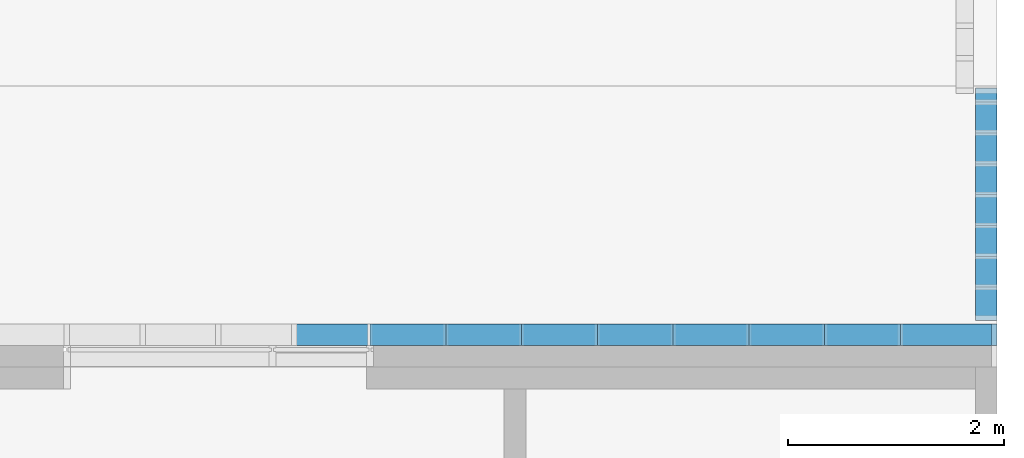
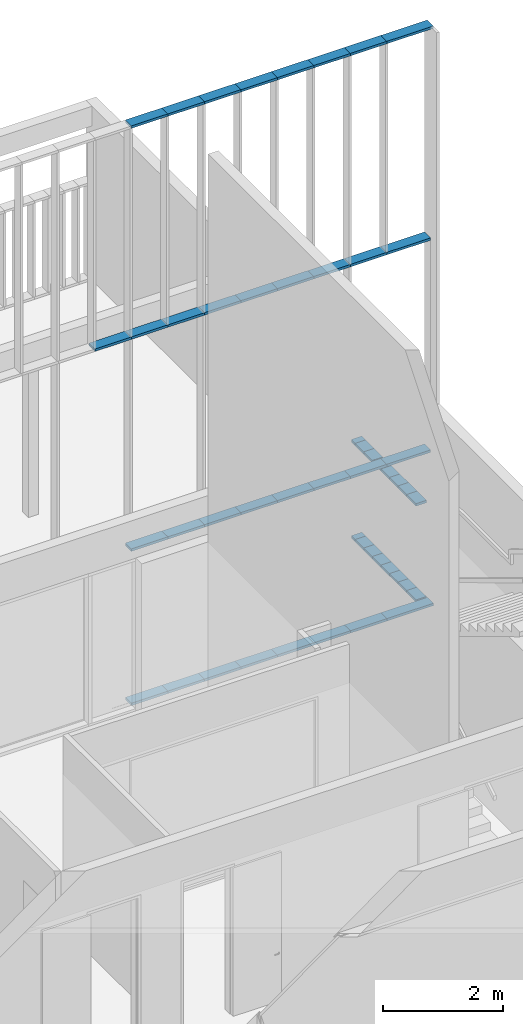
# One storey, part 55 of 240: 49 members, 2 elements without a shape of their own.
"""IFC2X3 building model written with IfcOpenShell, lengths in centimetres."""

from ifc_helpers import new_model, entity, si_unit, converted_unit, derived_unit, direction, frame, origin, origin_2d_with_axis, place, context, subcontext, project, spatial, rectangle, extrude, source, transform, mapped, material, type_object, type_shapes, element, aggregate, save


model = new_model("IFC2X3")

# Units and contexts
model_context = context("Model", 3, precision=0.001, world=origin(), true_north=direction((6.12303176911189e-17, 1.0)))
body_context = subcontext(model_context, "Body", "Model", "MODEL_VIEW")
ifc_project = project(units=[si_unit("LENGTHUNIT", "METRE", prefix="CENTI"), si_unit("AREAUNIT", "SQUARE_METRE"), si_unit("VOLUMEUNIT", "CUBIC_METRE"), converted_unit("PLANEANGLEUNIT", "DEGREE", entity("IfcRatioMeasure", 0.0174532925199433), si_unit("PLANEANGLEUNIT", "RADIAN"), dimensions=[0, 0, 0, 0, 0, 0, 0]), si_unit("MASSUNIT", "GRAM", prefix="KILO"), derived_unit("MASSDENSITYUNIT", [(si_unit("MASSUNIT", "GRAM", prefix="KILO"), 1), (si_unit("LENGTHUNIT", "METRE"), -3)]), si_unit("TIMEUNIT", "SECOND"), si_unit("FREQUENCYUNIT", "HERTZ"), si_unit("THERMODYNAMICTEMPERATUREUNIT", "DEGREE_CELSIUS"), derived_unit("THERMALTRANSMITTANCEUNIT", [(si_unit("MASSUNIT", "GRAM", prefix="KILO"), 1), (si_unit("THERMODYNAMICTEMPERATUREUNIT", "KELVIN"), -1), (si_unit("TIMEUNIT", "SECOND"), -3)]), derived_unit("VOLUMETRICFLOWRATEUNIT", [(si_unit("LENGTHUNIT", "METRE"), 3), (si_unit("TIMEUNIT", "SECOND"), -1)]), si_unit("ELECTRICCURRENTUNIT", "AMPERE"), si_unit("ELECTRICVOLTAGEUNIT", "VOLT"), si_unit("POWERUNIT", "WATT"), si_unit("FORCEUNIT", "NEWTON", prefix="KILO"), si_unit("ILLUMINANCEUNIT", "LUX"), si_unit("LUMINOUSFLUXUNIT", "LUMEN"), si_unit("LUMINOUSINTENSITYUNIT", "CANDELA"), derived_unit("USERDEFINED", [(si_unit("MASSUNIT", "GRAM", prefix="KILO"), -1), (si_unit("LENGTHUNIT", "METRE"), -2), (si_unit("TIMEUNIT", "SECOND"), 3), (si_unit("LUMINOUSFLUXUNIT", "LUMEN"), 1)]), derived_unit("LINEARVELOCITYUNIT", [(si_unit("LENGTHUNIT", "METRE"), 1), (si_unit("TIMEUNIT", "SECOND"), -1)]), si_unit("PRESSUREUNIT", "PASCAL"), derived_unit("USERDEFINED", [(si_unit("LENGTHUNIT", "METRE"), -2), (si_unit("MASSUNIT", "GRAM", prefix="KILO"), 1), (si_unit("TIMEUNIT", "SECOND"), -2)])], contexts=[model_context])

# Site, building, storey
site_placement = place(None, frame((-2781.94577612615, 7442.24238424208, 0.0)))
site = spatial("IfcSite", under=ifc_project, at=site_placement, Name="Default", CompositionType="ELEMENT")
building_placement = place(site_placement, origin())
building = spatial("IfcBuilding", under=site, at=building_placement, CompositionType="ELEMENT")
storey_placement = place(building_placement, origin())
storey = spatial("IfcBuildingStorey", under=building, at=storey_placement, Name="N00 - COO", CompositionType="ELEMENT", Elevation=0.0)

# Curtain wall, members
curtain_wall_type_1 = type_object("IfcCurtainWallType", Name="Mur-rideau:Epines - 200x30mm", PredefinedType="NOTDEFINED")
curtain_wall_1_placement = place(storey_placement, origin())
curtain_wall_1 = element("IfcCurtainWall", 1, at=curtain_wall_1_placement, inside=storey, type_object=curtain_wall_type_1, Name="Mur-rideau:Epines - 200x30mm", ObjectType="Mur-rideau:Epines - 200x30mm")
ifc_material = material(Name="Aluminium")
member_type_1 = type_object("IfcMemberType", Name="200x50 mm", PredefinedType="MEMBER")
shared_shape_1 = source(origin(), body_context, "Body", "SweptSolid", [
    extrude(rectangle(XDim=20.0, YDim=5.0, at=origin_2d_with_axis()), frame((-2.5, 0.0, -70.0), z_axis=(0.0, 0.0, 1.0), x_axis=(0.0, -1.0, 0.0)), (0.0, 0.0, 1.0), 70.0000000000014),
])
type_shapes(member_type_1, [shared_shape_1])
member_1_placement = place(storey_placement, frame((-689.29988284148, -1060.0, 1176.0), z_axis=(1.0, 0.0, 0.0), x_axis=(0.0, 0.0, 1.0)))
member_1 = element("IfcMember", 2, at=member_1_placement, type_object=member_type_1, material=ifc_material, Name="Meneau rectangulaire:200x50 mm", ObjectType="Meneau rectangulaire:200x50 mm", context=body_context, shape_type="MappedRepresentation", body=[
    mapped(shared_shape_1, transform((0.0, 0.0, 0.0), scale=1.0)),
])
member_2_placement = place(storey_placement, frame((-549.29988284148, -1060.0, 1176.0), z_axis=(1.0, 0.0, 0.0), x_axis=(0.0, 0.0, 1.0)))
member_2 = element("IfcMember", 3, at=member_2_placement, type_object=member_type_1, material=ifc_material, Name="Meneau rectangulaire:200x50 mm", ObjectType="Meneau rectangulaire:200x50 mm", context=body_context, shape_type="MappedRepresentation", body=[
    mapped(shared_shape_1, transform((0.0, 0.0, 0.0), scale=1.0)),
])
member_3_placement = place(storey_placement, frame((-829.29988284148, -1060.0, 1176.0), z_axis=(1.0, 0.0, 0.0), x_axis=(0.0, 0.0, 1.0)))
member_3 = element("IfcMember", 4, at=member_3_placement, type_object=member_type_1, material=ifc_material, Name="Meneau rectangulaire:200x50 mm", ObjectType="Meneau rectangulaire:200x50 mm", context=body_context, shape_type="MappedRepresentation", body=[
    mapped(shared_shape_1, transform((0.0, 0.0, 0.0), scale=1.0)),
])
member_4_placement = place(storey_placement, frame((-479.299882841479, -1060.0, 1176.0), z_axis=(1.0, 0.0, 0.0), x_axis=(0.0, 0.0, 1.0)))
member_4 = element("IfcMember", 5, at=member_4_placement, type_object=member_type_1, material=ifc_material, Name="Meneau rectangulaire:200x50 mm", ObjectType="Meneau rectangulaire:200x50 mm", context=body_context, shape_type="MappedRepresentation", body=[
    mapped(shared_shape_1, transform((0.0, 0.0, 0.0), scale=1.0)),
])
member_5_placement = place(storey_placement, frame((-619.29988284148, -1060.0, 1176.0), z_axis=(1.0, 0.0, 0.0), x_axis=(0.0, 0.0, 1.0)))
member_5 = element("IfcMember", 6, at=member_5_placement, type_object=member_type_1, material=ifc_material, Name="Meneau rectangulaire:200x50 mm", ObjectType="Meneau rectangulaire:200x50 mm", context=body_context, shape_type="MappedRepresentation", body=[
    mapped(shared_shape_1, transform((0.0, 0.0, 0.0), scale=1.0)),
])
member_6_placement = place(storey_placement, frame((-759.29988284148, -1060.0, 1176.0), z_axis=(1.0, 0.0, 0.0), x_axis=(0.0, 0.0, 1.0)))
member_6 = element("IfcMember", 7, at=member_6_placement, type_object=member_type_1, material=ifc_material, Name="Meneau rectangulaire:200x50 mm", ObjectType="Meneau rectangulaire:200x50 mm", context=body_context, shape_type="MappedRepresentation", body=[
    mapped(shared_shape_1, transform((0.0, 0.0, 0.0), scale=1.0)),
])
member_7_placement = place(storey_placement, frame((-899.29988284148, -1060.0, 1176.0), z_axis=(1.0, 0.0, 0.0), x_axis=(0.0, 0.0, 1.0)))
member_7 = element("IfcMember", 8, at=member_7_placement, type_object=member_type_1, material=ifc_material, Name="Meneau rectangulaire:200x50 mm", ObjectType="Meneau rectangulaire:200x50 mm", context=body_context, shape_type="MappedRepresentation", body=[
    mapped(shared_shape_1, transform((0.0, 0.0, 0.0), scale=1.0)),
])
member_type_2 = type_object("IfcMemberType", Name="200x50 mm", PredefinedType="MEMBER")
shared_shape_2 = source(origin(), body_context, "Body", "SweptSolid", [
    extrude(rectangle(XDim=20.0, YDim=5.0, at=origin_2d_with_axis()), frame((-2.5, 0.0, -70.0), z_axis=(0.0, 0.0, 1.0), x_axis=(0.0, -1.0, 0.0)), (0.0, 0.0, 1.0), 70.0000000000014),
])
type_shapes(member_type_2, [shared_shape_2])
member_8_placement = place(storey_placement, frame((-689.29988284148, -1060.0, 0.0), z_axis=(-1.0, 0.0, 0.0), x_axis=(0.0, 0.0, -1.0)))
member_8 = element("IfcMember", 9, at=member_8_placement, type_object=member_type_2, material=ifc_material, Name="Meneau rectangulaire:200x50 mm", ObjectType="Meneau rectangulaire:200x50 mm", context=body_context, shape_type="MappedRepresentation", body=[
    mapped(shared_shape_2, transform((0.0, 0.0, 0.0), scale=1.0)),
])
member_9_placement = place(storey_placement, frame((-969.299882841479, -1060.0, 0.0), z_axis=(-1.0, 0.0, 0.0), x_axis=(0.0, 0.0, -1.0)))
member_9 = element("IfcMember", 10, at=member_9_placement, type_object=member_type_2, material=ifc_material, Name="Meneau rectangulaire:200x50 mm", ObjectType="Meneau rectangulaire:200x50 mm", context=body_context, shape_type="MappedRepresentation", body=[
    mapped(shared_shape_2, transform((0.0, 0.0, 0.0), scale=1.0)),
])
member_type_3 = type_object("IfcMemberType", Name="200x50 mm", PredefinedType="MEMBER")
shared_shape_3 = source(origin(), body_context, "Body", "SweptSolid", [
    extrude(rectangle(XDim=20.0, YDim=5.0, at=origin_2d_with_axis()), frame((0.0, 0.0, -70.0), z_axis=(0.0, 0.0, 1.0), x_axis=(0.0, -1.0, 0.0)), (0.0, 0.0, 1.0), 70.0000000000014),
])
type_shapes(member_type_3, [shared_shape_3])
member_10_placement = place(storey_placement, frame((-619.29988284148, -1060.0, 315.5), z_axis=(1.0, 0.0, 0.0), x_axis=(0.0, 0.0, 1.0)))
member_10 = element("IfcMember", 11, at=member_10_placement, type_object=member_type_3, material=ifc_material, Name="Meneau rectangulaire:200x50 mm", ObjectType="Meneau rectangulaire:200x50 mm", context=body_context, shape_type="MappedRepresentation", body=[
    mapped(shared_shape_3, transform((0.0, 0.0, 0.0), scale=1.0)),
])
member_11_placement = place(storey_placement, frame((-899.29988284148, -1060.0, 315.5), z_axis=(1.0, 0.0, 0.0), x_axis=(0.0, 0.0, 1.0)))
member_11 = element("IfcMember", 12, at=member_11_placement, type_object=member_type_3, material=ifc_material, Name="Meneau rectangulaire:200x50 mm", ObjectType="Meneau rectangulaire:200x50 mm", context=body_context, shape_type="MappedRepresentation", body=[
    mapped(shared_shape_3, transform((0.0, 0.0, 0.0), scale=1.0)),
])
member_12_placement = place(storey_placement, frame((-479.299882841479, -1060.0, 315.5), z_axis=(1.0, 0.0, 0.0), x_axis=(0.0, 0.0, 1.0)))
member_12 = element("IfcMember", 13, at=member_12_placement, type_object=member_type_3, material=ifc_material, Name="Meneau rectangulaire:200x50 mm", ObjectType="Meneau rectangulaire:200x50 mm", context=body_context, shape_type="MappedRepresentation", body=[
    mapped(shared_shape_3, transform((0.0, 0.0, 0.0), scale=1.0)),
])
member_13_placement = place(storey_placement, frame((-759.29988284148, -1060.0, 315.5), z_axis=(1.0, 0.0, 0.0), x_axis=(0.0, 0.0, 1.0)))
member_13 = element("IfcMember", 14, at=member_13_placement, type_object=member_type_3, material=ifc_material, Name="Meneau rectangulaire:200x50 mm", ObjectType="Meneau rectangulaire:200x50 mm", context=body_context, shape_type="MappedRepresentation", body=[
    mapped(shared_shape_3, transform((0.0, 0.0, 0.0), scale=1.0)),
])
member_type_4 = type_object("IfcMemberType", Name="200x50 mm", PredefinedType="MEMBER")
shared_shape_4 = source(origin(), body_context, "Body", "SweptSolid", [
    extrude(rectangle(XDim=20.0, YDim=5.0, at=origin_2d_with_axis()), frame((0.0, 0.0, -70.0), z_axis=(0.0, 0.0, 1.0), x_axis=(0.0, -1.0, 0.0)), (0.0, 0.0, 1.0), 70.0000000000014),
])
type_shapes(member_type_4, [shared_shape_4])
member_14_placement = place(storey_placement, frame((-619.29988284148, -1060.0, 745.5), z_axis=(1.0, 0.0, 0.0), x_axis=(0.0, 0.0, 1.0)))
member_14 = element("IfcMember", 15, at=member_14_placement, type_object=member_type_4, material=ifc_material, Name="Meneau rectangulaire:200x50 mm", ObjectType="Meneau rectangulaire:200x50 mm", context=body_context, shape_type="MappedRepresentation", body=[
    mapped(shared_shape_4, transform((0.0, 0.0, 0.0), scale=1.0)),
])
member_15_placement = place(storey_placement, frame((-899.29988284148, -1060.0, 745.5), z_axis=(1.0, 0.0, 0.0), x_axis=(0.0, 0.0, 1.0)))
member_15 = element("IfcMember", 16, at=member_15_placement, type_object=member_type_4, material=ifc_material, Name="Meneau rectangulaire:200x50 mm", ObjectType="Meneau rectangulaire:200x50 mm", context=body_context, shape_type="MappedRepresentation", body=[
    mapped(shared_shape_4, transform((0.0, 0.0, 0.0), scale=1.0)),
])
member_16_placement = place(storey_placement, frame((-479.299882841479, -1060.0, 745.5), z_axis=(1.0, 0.0, 0.0), x_axis=(0.0, 0.0, 1.0)))
member_16 = element("IfcMember", 17, at=member_16_placement, type_object=member_type_4, material=ifc_material, Name="Meneau rectangulaire:200x50 mm", ObjectType="Meneau rectangulaire:200x50 mm", context=body_context, shape_type="MappedRepresentation", body=[
    mapped(shared_shape_4, transform((0.0, 0.0, 0.0), scale=1.0)),
])
member_17_placement = place(storey_placement, frame((-759.299882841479, -1060.0, 745.5), z_axis=(1.0, 0.0, 0.0), x_axis=(0.0, 0.0, 1.0)))
member_17 = element("IfcMember", 18, at=member_17_placement, type_object=member_type_4, material=ifc_material, Name="Meneau rectangulaire:200x50 mm", ObjectType="Meneau rectangulaire:200x50 mm", context=body_context, shape_type="MappedRepresentation", body=[
    mapped(shared_shape_4, transform((0.0, 0.0, 0.0), scale=1.0)),
])
member_18_placement = place(storey_placement, frame((-549.29988284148, -1060.0, 745.5), z_axis=(1.0, 0.0, 0.0), x_axis=(0.0, 0.0, 1.0)))
member_18 = element("IfcMember", 19, at=member_18_placement, type_object=member_type_4, material=ifc_material, Name="Meneau rectangulaire:200x50 mm", ObjectType="Meneau rectangulaire:200x50 mm", context=body_context, shape_type="MappedRepresentation", body=[
    mapped(shared_shape_4, transform((0.0, 0.0, 0.0), scale=1.0)),
])
member_19_placement = place(storey_placement, frame((-689.29988284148, -1060.0, 745.5), z_axis=(1.0, 0.0, 0.0), x_axis=(0.0, 0.0, 1.0)))
member_19 = element("IfcMember", 20, at=member_19_placement, type_object=member_type_4, material=ifc_material, Name="Meneau rectangulaire:200x50 mm", ObjectType="Meneau rectangulaire:200x50 mm", context=body_context, shape_type="MappedRepresentation", body=[
    mapped(shared_shape_4, transform((0.0, 0.0, 0.0), scale=1.0)),
])
member_20_placement = place(storey_placement, frame((-829.29988284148, -1060.0, 745.5), z_axis=(1.0, 0.0, 0.0), x_axis=(0.0, 0.0, 1.0)))
member_20 = element("IfcMember", 21, at=member_20_placement, type_object=member_type_4, material=ifc_material, Name="Meneau rectangulaire:200x50 mm", ObjectType="Meneau rectangulaire:200x50 mm", context=body_context, shape_type="MappedRepresentation", body=[
    mapped(shared_shape_4, transform((0.0, 0.0, 0.0), scale=1.0)),
])
member_21_placement = place(storey_placement, frame((-969.29988284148, -1060.0, 745.5), z_axis=(1.0, 0.0, 0.0), x_axis=(0.0, 0.0, 1.0)))
member_21 = element("IfcMember", 22, at=member_21_placement, type_object=member_type_4, material=ifc_material, Name="Meneau rectangulaire:200x50 mm", ObjectType="Meneau rectangulaire:200x50 mm", context=body_context, shape_type="MappedRepresentation", body=[
    mapped(shared_shape_4, transform((0.0, 0.0, 0.0), scale=1.0)),
])
member_type_5 = type_object("IfcMemberType", Name="200x50 mm", PredefinedType="MEMBER")
shared_shape_5 = source(origin(), body_context, "Body", "SweptSolid", [
    extrude(rectangle(XDim=20.0, YDim=5.0, at=origin_2d_with_axis()), frame((-2.5, 0.0, -70.0), z_axis=(0.0, 0.0, 1.0), x_axis=(0.0, -1.0, 0.0)), (0.0, 0.0, 1.0), 69.9999999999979),
])
type_shapes(member_type_5, [shared_shape_5])
member_22_placement = place(storey_placement, frame((-549.29988284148, -1060.0, 0.0), z_axis=(-1.0, 0.0, 0.0), x_axis=(0.0, 0.0, -1.0)))
member_22 = element("IfcMember", 23, at=member_22_placement, type_object=member_type_5, material=ifc_material, Name="Meneau rectangulaire:200x50 mm", ObjectType="Meneau rectangulaire:200x50 mm", context=body_context, shape_type="MappedRepresentation", body=[
    mapped(shared_shape_5, transform((0.0, 0.0, 0.0), scale=1.0)),
])
member_23_placement = place(storey_placement, frame((-829.29988284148, -1060.0, 0.0), z_axis=(-1.0, 0.0, 0.0), x_axis=(0.0, 0.0, -1.0)))
member_23 = element("IfcMember", 24, at=member_23_placement, type_object=member_type_5, material=ifc_material, Name="Meneau rectangulaire:200x50 mm", ObjectType="Meneau rectangulaire:200x50 mm", context=body_context, shape_type="MappedRepresentation", body=[
    mapped(shared_shape_5, transform((0.0, 0.0, 0.0), scale=1.0)),
])
member_24_placement = place(storey_placement, frame((-619.29988284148, -1060.0, 0.0), z_axis=(-1.0, 0.0, 0.0), x_axis=(0.0, 0.0, -1.0)))
member_24 = element("IfcMember", 25, at=member_24_placement, type_object=member_type_5, material=ifc_material, Name="Meneau rectangulaire:200x50 mm", ObjectType="Meneau rectangulaire:200x50 mm", context=body_context, shape_type="MappedRepresentation", body=[
    mapped(shared_shape_5, transform((0.0, 0.0, 0.0), scale=1.0)),
])
member_25_placement = place(storey_placement, frame((-899.29988284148, -1060.0, 0.0), z_axis=(-1.0, 0.0, 0.0), x_axis=(0.0, 0.0, -1.0)))
member_25 = element("IfcMember", 26, at=member_25_placement, type_object=member_type_5, material=ifc_material, Name="Meneau rectangulaire:200x50 mm", ObjectType="Meneau rectangulaire:200x50 mm", context=body_context, shape_type="MappedRepresentation", body=[
    mapped(shared_shape_5, transform((0.0, 0.0, 0.0), scale=1.0)),
])
member_type_6 = type_object("IfcMemberType", Name="200x50 mm", PredefinedType="MEMBER")
shared_shape_6 = source(origin(), body_context, "Body", "SweptSolid", [
    extrude(rectangle(XDim=20.0, YDim=5.0, at=origin_2d_with_axis()), frame((0.0, 0.0, -70.0), z_axis=(0.0, 0.0, 1.0), x_axis=(0.0, -1.0, 0.0)), (0.0, 0.0, 1.0), 70.0000000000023),
])
type_shapes(member_type_6, [shared_shape_6])
member_26_placement = place(storey_placement, frame((-549.29988284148, -1060.0, 315.5), z_axis=(1.0, 0.0, 0.0), x_axis=(0.0, 0.0, 1.0)))
member_26 = element("IfcMember", 27, at=member_26_placement, type_object=member_type_6, material=ifc_material, Name="Meneau rectangulaire:200x50 mm", ObjectType="Meneau rectangulaire:200x50 mm", context=body_context, shape_type="MappedRepresentation", body=[
    mapped(shared_shape_6, transform((0.0, 0.0, 0.0), scale=1.0)),
])
member_27_placement = place(storey_placement, frame((-689.29988284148, -1060.0, 315.5), z_axis=(1.0, 0.0, 0.0), x_axis=(0.0, 0.0, 1.0)))
member_27 = element("IfcMember", 28, at=member_27_placement, type_object=member_type_6, material=ifc_material, Name="Meneau rectangulaire:200x50 mm", ObjectType="Meneau rectangulaire:200x50 mm", context=body_context, shape_type="MappedRepresentation", body=[
    mapped(shared_shape_6, transform((0.0, 0.0, 0.0), scale=1.0)),
])
member_28_placement = place(storey_placement, frame((-829.29988284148, -1060.0, 315.5), z_axis=(1.0, 0.0, 0.0), x_axis=(0.0, 0.0, 1.0)))
member_28 = element("IfcMember", 29, at=member_28_placement, type_object=member_type_6, material=ifc_material, Name="Meneau rectangulaire:200x50 mm", ObjectType="Meneau rectangulaire:200x50 mm", context=body_context, shape_type="MappedRepresentation", body=[
    mapped(shared_shape_6, transform((0.0, 0.0, 0.0), scale=1.0)),
])
member_type_7 = type_object("IfcMemberType", Name="200x50 mm", PredefinedType="MEMBER")
shared_shape_7 = source(origin(), body_context, "Body", "SweptSolid", [
    extrude(rectangle(XDim=20.0, YDim=5.0, at=origin_2d_with_axis()), frame((-2.5, 0.0, -70.0), z_axis=(0.0, 0.0, 1.0), x_axis=(0.0, -1.0, 0.0)), (0.0, 0.0, 1.0), 70.0000000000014),
])
type_shapes(member_type_7, [shared_shape_7])
member_29_placement = place(storey_placement, frame((-759.29988284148, -1060.0, 0.0), z_axis=(-1.0, 0.0, 0.0), x_axis=(0.0, 0.0, -1.0)))
member_29 = element("IfcMember", 30, at=member_29_placement, type_object=member_type_7, material=ifc_material, Name="Meneau rectangulaire:200x50 mm", ObjectType="Meneau rectangulaire:200x50 mm", context=body_context, shape_type="MappedRepresentation", body=[
    mapped(shared_shape_7, transform((0.0, 0.0, 0.0), scale=1.0)),
])

curtain_wall_type_2 = type_object("IfcCurtainWallType", Name="Mur-rideau:SR-Clôture", PredefinedType="NOTDEFINED")
curtain_wall_2_placement = place(building_placement, origin())
curtain_wall_2 = element("IfcCurtainWall", 31, at=curtain_wall_2_placement, inside=storey, type_object=curtain_wall_type_2, Name="Mur-rideau:SR-Clôture", ObjectType="Mur-rideau:SR-Clôture")
member_type_8 = type_object("IfcMemberType", Name="Epine nord (200x50 mm)", PredefinedType="MEMBER")
shared_shape_8 = source(origin(), body_context, "Body", "SweptSolid", [
    extrude(rectangle(XDim=20.0, YDim=5.0, at=origin_2d_with_axis()), frame((-2.5, 0.0, -31.0), z_axis=(0.0, 0.0, 1.0), x_axis=(0.0, -1.0, 0.0)), (0.0, 0.0, 1.0), 31.0000000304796),
])
type_shapes(member_type_8, [shared_shape_8])
member_30_placement = place(building_placement, frame((-399.999882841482, -1016.04850095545, 200.0), z_axis=(0.0, 1.0, 0.0), x_axis=(0.0, 0.0, 1.0)))
member_30 = element("IfcMember", 32, at=member_30_placement, type_object=member_type_8, material=ifc_material, Name="Meneau rectangulaire:Epine nord (200x50 mm)", ObjectType="Meneau rectangulaire:Epine nord (200x50 mm)", context=body_context, shape_type="MappedRepresentation", body=[
    mapped(shared_shape_8, transform((0.0, 0.0, 0.0), scale=1.0)),
])
member_type_9 = type_object("IfcMemberType", Name="Epine nord (200x50 mm)", PredefinedType="MEMBER")
shared_shape_9 = source(origin(), body_context, "Body", "SweptSolid", [
    extrude(rectangle(XDim=20.0, YDim=5.0, at=origin_2d_with_axis()), frame((-2.5, 0.0, -28.5000000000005), z_axis=(0.0, 0.0, 1.0), x_axis=(0.0, -1.0, 0.0)), (0.0, 0.0, 1.0), 28.5000000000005),
])
type_shapes(member_type_9, [shared_shape_9])
member_31_placement = place(building_placement, frame((-399.999882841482, -987.548500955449, 200.0), z_axis=(0.0, 1.0, 0.0), x_axis=(0.0, 0.0, 1.0)))
member_31 = element("IfcMember", 33, at=member_31_placement, type_object=member_type_9, material=ifc_material, Name="Meneau rectangulaire:Epine nord (200x50 mm)", ObjectType="Meneau rectangulaire:Epine nord (200x50 mm)", context=body_context, shape_type="MappedRepresentation", body=[
    mapped(shared_shape_9, transform((0.0, 0.0, 0.0), scale=1.0)),
])
member_32_placement = place(building_placement, frame((-399.999882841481, -959.048500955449, 200.0), z_axis=(0.0, 1.0, 0.0), x_axis=(0.0, 0.0, 1.0)))
member_32 = element("IfcMember", 34, at=member_32_placement, type_object=member_type_9, material=ifc_material, Name="Meneau rectangulaire:Epine nord (200x50 mm)", ObjectType="Meneau rectangulaire:Epine nord (200x50 mm)", context=body_context, shape_type="MappedRepresentation", body=[
    mapped(shared_shape_9, transform((0.0, 0.0, 0.0), scale=1.0)),
])
member_33_placement = place(building_placement, frame((-399.999882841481, -930.548500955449, 200.0), z_axis=(0.0, 1.0, 0.0), x_axis=(0.0, 0.0, 1.0)))
member_33 = element("IfcMember", 35, at=member_33_placement, type_object=member_type_9, material=ifc_material, Name="Meneau rectangulaire:Epine nord (200x50 mm)", ObjectType="Meneau rectangulaire:Epine nord (200x50 mm)", context=body_context, shape_type="MappedRepresentation", body=[
    mapped(shared_shape_9, transform((0.0, 0.0, 0.0), scale=1.0)),
])
member_34_placement = place(building_placement, frame((-399.999882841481, -902.048500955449, 200.0), z_axis=(0.0, 1.0, 0.0), x_axis=(0.0, 0.0, 1.0)))
member_34 = element("IfcMember", 36, at=member_34_placement, type_object=member_type_9, material=ifc_material, Name="Meneau rectangulaire:Epine nord (200x50 mm)", ObjectType="Meneau rectangulaire:Epine nord (200x50 mm)", context=body_context, shape_type="MappedRepresentation", body=[
    mapped(shared_shape_9, transform((0.0, 0.0, 0.0), scale=1.0)),
])
member_35_placement = place(building_placement, frame((-399.999882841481, -873.548500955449, 200.0), z_axis=(0.0, 1.0, 0.0), x_axis=(0.0, 0.0, 1.0)))
member_35 = element("IfcMember", 37, at=member_35_placement, type_object=member_type_9, material=ifc_material, Name="Meneau rectangulaire:Epine nord (200x50 mm)", ObjectType="Meneau rectangulaire:Epine nord (200x50 mm)", context=body_context, shape_type="MappedRepresentation", body=[
    mapped(shared_shape_9, transform((0.0, 0.0, 0.0), scale=1.0)),
])
member_36_placement = place(building_placement, frame((-399.999882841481, -845.048500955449, 200.0), z_axis=(0.0, 1.0, 0.0), x_axis=(0.0, 0.0, 1.0)))
member_36 = element("IfcMember", 38, at=member_36_placement, type_object=member_type_9, material=ifc_material, Name="Meneau rectangulaire:Epine nord (200x50 mm)", ObjectType="Meneau rectangulaire:Epine nord (200x50 mm)", context=body_context, shape_type="MappedRepresentation", body=[
    mapped(shared_shape_9, transform((0.0, 0.0, 0.0), scale=1.0)),
])
member_type_10 = type_object("IfcMemberType", Name="Epine nord (200x50 mm)", PredefinedType="MEMBER")
shared_shape_10 = source(origin(), body_context, "Body", "SweptSolid", [
    extrude(rectangle(XDim=20.0, YDim=5.0, at=origin_2d_with_axis()), frame((-2.5, 0.0, -28.5000000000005), z_axis=(0.0, 0.0, 1.0), x_axis=(0.0, -1.0, 0.0)), (0.0, 0.0, 1.0), 28.5000000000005),
])
type_shapes(member_type_10, [shared_shape_10])
member_37_placement = place(building_placement, frame((-399.999882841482, -1016.04850095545, 0.0), z_axis=(0.0, -1.0, 0.0), x_axis=(0.0, 0.0, -1.0)))
member_37 = element("IfcMember", 39, at=member_37_placement, type_object=member_type_10, material=ifc_material, Name="Meneau rectangulaire:Epine nord (200x50 mm)", ObjectType="Meneau rectangulaire:Epine nord (200x50 mm)", context=body_context, shape_type="MappedRepresentation", body=[
    mapped(shared_shape_10, transform((0.0, 0.0, 0.0), scale=1.0)),
])
member_38_placement = place(building_placement, frame((-399.999882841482, -987.548500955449, 0.0), z_axis=(0.0, -1.0, 0.0), x_axis=(0.0, 0.0, -1.0)))
member_38 = element("IfcMember", 40, at=member_38_placement, type_object=member_type_10, material=ifc_material, Name="Meneau rectangulaire:Epine nord (200x50 mm)", ObjectType="Meneau rectangulaire:Epine nord (200x50 mm)", context=body_context, shape_type="MappedRepresentation", body=[
    mapped(shared_shape_10, transform((0.0, 0.0, 0.0), scale=1.0)),
])
member_39_placement = place(building_placement, frame((-399.999882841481, -959.048500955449, 0.0), z_axis=(0.0, -1.0, 0.0), x_axis=(0.0, 0.0, -1.0)))
member_39 = element("IfcMember", 41, at=member_39_placement, type_object=member_type_10, material=ifc_material, Name="Meneau rectangulaire:Epine nord (200x50 mm)", ObjectType="Meneau rectangulaire:Epine nord (200x50 mm)", context=body_context, shape_type="MappedRepresentation", body=[
    mapped(shared_shape_10, transform((0.0, 0.0, 0.0), scale=1.0)),
])
member_40_placement = place(building_placement, frame((-399.999882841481, -930.548500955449, 0.0), z_axis=(0.0, -1.0, 0.0), x_axis=(0.0, 0.0, -1.0)))
member_40 = element("IfcMember", 42, at=member_40_placement, type_object=member_type_10, material=ifc_material, Name="Meneau rectangulaire:Epine nord (200x50 mm)", ObjectType="Meneau rectangulaire:Epine nord (200x50 mm)", context=body_context, shape_type="MappedRepresentation", body=[
    mapped(shared_shape_10, transform((0.0, 0.0, 0.0), scale=1.0)),
])
member_41_placement = place(building_placement, frame((-399.999882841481, -902.048500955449, 0.0), z_axis=(0.0, -1.0, 0.0), x_axis=(0.0, 0.0, -1.0)))
member_41 = element("IfcMember", 43, at=member_41_placement, type_object=member_type_10, material=ifc_material, Name="Meneau rectangulaire:Epine nord (200x50 mm)", ObjectType="Meneau rectangulaire:Epine nord (200x50 mm)", context=body_context, shape_type="MappedRepresentation", body=[
    mapped(shared_shape_10, transform((0.0, 0.0, 0.0), scale=1.0)),
])
member_42_placement = place(building_placement, frame((-399.999882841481, -873.548500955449, 0.0), z_axis=(0.0, -1.0, 0.0), x_axis=(0.0, 0.0, -1.0)))
member_42 = element("IfcMember", 44, at=member_42_placement, type_object=member_type_10, material=ifc_material, Name="Meneau rectangulaire:Epine nord (200x50 mm)", ObjectType="Meneau rectangulaire:Epine nord (200x50 mm)", context=body_context, shape_type="MappedRepresentation", body=[
    mapped(shared_shape_10, transform((0.0, 0.0, 0.0), scale=1.0)),
])

# Member
member_type_11 = type_object("IfcMemberType", Name="200x50 mm", PredefinedType="MEMBER")
shared_shape_11 = source(origin(), body_context, "Body", "SweptSolid", [
    extrude(rectangle(XDim=20.0, YDim=5.0, at=origin_2d_with_axis()), frame((-2.5, 0.0, -89.3000031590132), z_axis=(0.0, 0.0, 1.0), x_axis=(0.0, -1.0, 0.0)), (0.0, 0.0, 1.0), 89.3000031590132),
])
type_shapes(member_type_11, [shared_shape_11])
member_43_placement = place(storey_placement, frame((-389.999879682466, -1060.0, 1176.0), z_axis=(1.0, 0.0, 0.0), x_axis=(0.0, 0.0, 1.0)))
member_43 = element("IfcMember", 45, at=member_43_placement, type_object=member_type_11, material=ifc_material, Name="Meneau rectangulaire:200x50 mm", ObjectType="Meneau rectangulaire:200x50 mm", context=body_context, shape_type="MappedRepresentation", body=[
    mapped(shared_shape_11, transform((0.0, 0.0, 0.0), scale=1.0)),
])

member_type_12 = type_object("IfcMemberType", Name="200x50 mm", PredefinedType="MEMBER")
shared_shape_12 = source(origin(), body_context, "Body", "SweptSolid", [
    extrude(rectangle(XDim=20.0, YDim=5.0, at=origin_2d_with_axis()), frame((-2.5, 0.0, -89.3000031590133), z_axis=(0.0, 0.0, 1.0), x_axis=(0.0, -1.0, 0.0)), (0.0, 0.0, 1.0), 89.3000031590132),
])
type_shapes(member_type_12, [shared_shape_12])
member_44_placement = place(storey_placement, frame((-479.299882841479, -1060.0, 0.0), z_axis=(-1.0, 0.0, 0.0), x_axis=(0.0, 0.0, -1.0)))
member_44 = element("IfcMember", 46, at=member_44_placement, type_object=member_type_12, material=ifc_material, Name="Meneau rectangulaire:200x50 mm", ObjectType="Meneau rectangulaire:200x50 mm", context=body_context, shape_type="MappedRepresentation", body=[
    mapped(shared_shape_12, transform((0.0, 0.0, 0.0), scale=1.0)),
])

member_type_13 = type_object("IfcMemberType", Name="200x50 mm", PredefinedType="MEMBER")
shared_shape_13 = source(origin(), body_context, "Body", "SweptSolid", [
    extrude(rectangle(XDim=20.0, YDim=5.0, at=origin_2d_with_axis()), frame((0.0, 0.0, -84.3000031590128), z_axis=(0.0, 0.0, 1.0), x_axis=(0.0, -1.0, 0.0)), (0.0, 0.0, 1.0), 84.3000031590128),
])
type_shapes(member_type_13, [shared_shape_13])
member_45_placement = place(storey_placement, frame((-394.999879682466, -1060.0, 315.5), z_axis=(1.0, 0.0, 0.0), x_axis=(0.0, 0.0, 1.0)))
member_45 = element("IfcMember", 47, at=member_45_placement, type_object=member_type_13, material=ifc_material, Name="Meneau rectangulaire:200x50 mm", ObjectType="Meneau rectangulaire:200x50 mm", context=body_context, shape_type="MappedRepresentation", body=[
    mapped(shared_shape_13, transform((0.0, 0.0, 0.0), scale=1.0)),
])

member_type_14 = type_object("IfcMemberType", Name="200x50 mm", PredefinedType="MEMBER")
shared_shape_14 = source(origin(), body_context, "Body", "SweptSolid", [
    extrude(rectangle(XDim=20.0, YDim=5.0, at=origin_2d_with_axis()), frame((0.0, 0.0, -84.3000031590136), z_axis=(0.0, 0.0, 1.0), x_axis=(0.0, -1.0, 0.0)), (0.0, 0.0, 1.0), 84.3000031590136),
])
type_shapes(member_type_14, [shared_shape_14])
member_46_placement = place(storey_placement, frame((-394.999879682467, -1060.0, 745.5), z_axis=(1.0, 0.0, 0.0), x_axis=(0.0, 0.0, 1.0)))
member_46 = element("IfcMember", 48, at=member_46_placement, type_object=member_type_14, material=ifc_material, Name="Meneau rectangulaire:200x50 mm", ObjectType="Meneau rectangulaire:200x50 mm", context=body_context, shape_type="MappedRepresentation", body=[
    mapped(shared_shape_14, transform((0.0, 0.0, 0.0), scale=1.0)),
])

aggregate(curtain_wall_1, [member_43, member_1, member_8, member_10, member_14, member_9, member_11, member_15, member_2, member_22, member_12, member_16, member_3, member_23, member_13, member_17, member_4, member_44, member_45, member_46, member_5, member_24, member_26, member_18, member_6, member_29, member_27, member_19, member_7, member_25, member_28, member_20, member_21])

member_type_15 = type_object("IfcMemberType", Name="Epine nord (200x50 mm)", PredefinedType="MEMBER")
shared_shape_15 = source(origin(), body_context, "Body", "SweptSolid", [
    extrude(rectangle(XDim=20.0, YDim=5.0, at=origin_2d_with_axis()), frame((-2.5, 0.0, -31.0), z_axis=(0.0, 0.0, 1.0), x_axis=(0.0, -1.0, 0.0)), (0.0, 0.0, 1.0), 31.0000000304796),
])
type_shapes(member_type_15, [shared_shape_15])
member_47_placement = place(building_placement, frame((-399.999882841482, -1047.04850098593, 0.0), z_axis=(0.0, -1.0, 0.0), x_axis=(0.0, 0.0, -1.0)))
member_47 = element("IfcMember", 49, at=member_47_placement, type_object=member_type_15, material=ifc_material, Name="Meneau rectangulaire:Epine nord (200x50 mm)", ObjectType="Meneau rectangulaire:Epine nord (200x50 mm)", context=body_context, shape_type="MappedRepresentation", body=[
    mapped(shared_shape_15, transform((0.0, 0.0, 0.0), scale=1.0)),
])

member_type_16 = type_object("IfcMemberType", Name="Epine nord (200x50 mm)", PredefinedType="MEMBER")
shared_shape_16 = source(origin(), body_context, "Body", "SweptSolid", [
    extrude(rectangle(XDim=20.0, YDim=5.0, at=origin_2d_with_axis()), frame((-2.5, 0.0, -12.9999999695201), z_axis=(0.0, 0.0, 1.0), x_axis=(0.0, -1.0, 0.0)), (0.0, 0.0, 1.0), 12.99999996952),
])
type_shapes(member_type_16, [shared_shape_16])
member_48_placement = place(building_placement, frame((-399.999882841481, -832.048500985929, 200.0), z_axis=(0.0, 1.0, 0.0), x_axis=(0.0, 0.0, 1.0)))
member_48 = element("IfcMember", 50, at=member_48_placement, type_object=member_type_16, material=ifc_material, Name="Meneau rectangulaire:Epine nord (200x50 mm)", ObjectType="Meneau rectangulaire:Epine nord (200x50 mm)", context=body_context, shape_type="MappedRepresentation", body=[
    mapped(shared_shape_16, transform((0.0, 0.0, 0.0), scale=1.0)),
])

member_type_17 = type_object("IfcMemberType", Name="Epine nord (200x50 mm)", PredefinedType="MEMBER")
shared_shape_17 = source(origin(), body_context, "Body", "SweptSolid", [
    extrude(rectangle(XDim=20.0, YDim=5.0, at=origin_2d_with_axis()), frame((-2.5, 0.0, -12.9999999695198), z_axis=(0.0, 0.0, 1.0), x_axis=(0.0, -1.0, 0.0)), (0.0, 0.0, 1.0), 12.99999996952),
])
type_shapes(member_type_17, [shared_shape_17])
member_49_placement = place(building_placement, frame((-399.999882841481, -845.048500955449, 0.0), z_axis=(0.0, -1.0, 0.0), x_axis=(0.0, 0.0, -1.0)))
member_49 = element("IfcMember", 51, at=member_49_placement, type_object=member_type_17, material=ifc_material, Name="Meneau rectangulaire:Epine nord (200x50 mm)", ObjectType="Meneau rectangulaire:Epine nord (200x50 mm)", context=body_context, shape_type="MappedRepresentation", body=[
    mapped(shared_shape_17, transform((0.0, 0.0, 0.0), scale=1.0)),
])

aggregate(curtain_wall_2, [member_30, member_31, member_32, member_33, member_34, member_35, member_36, member_47, member_37, member_38, member_39, member_40, member_41, member_42, member_48, member_49])

save(model, "model.ifc")
